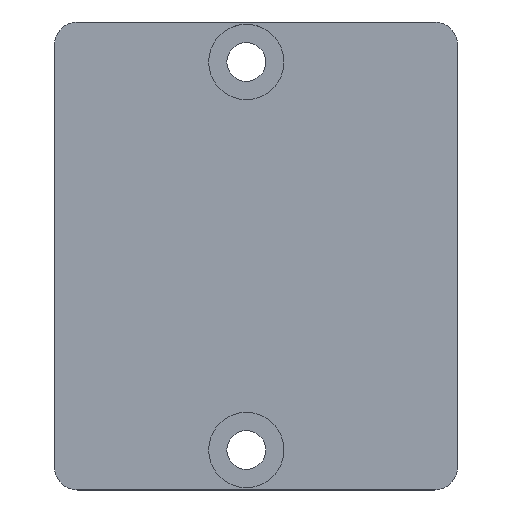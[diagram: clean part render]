
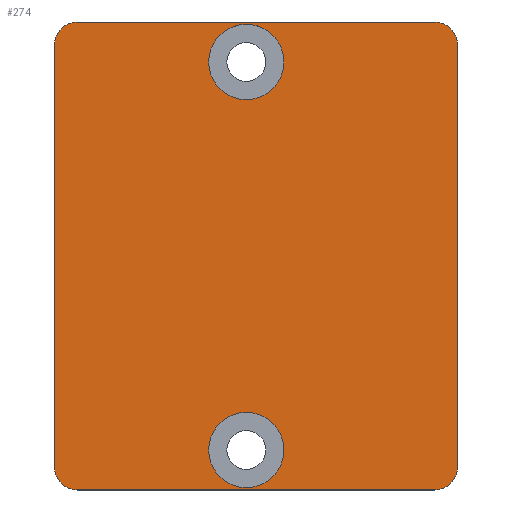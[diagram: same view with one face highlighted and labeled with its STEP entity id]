
A CAD part, top view. The second image highlights one B-rep face of the part: STEP entity #274.
In plain terms, the highlighted planar face has unit normal (0, 0, 1).
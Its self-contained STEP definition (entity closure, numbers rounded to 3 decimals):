
#25=FACE_BOUND('',#59,.T.);
#26=FACE_BOUND('',#60,.T.);
#40=FACE_OUTER_BOUND('',#58,.T.);
#58=EDGE_LOOP('',(#233,#234,#235,#236,#237,#238,#239,#240));
#59=EDGE_LOOP('',(#241));
#60=EDGE_LOOP('',(#242));
#73=CIRCLE('',#302,2.);
#74=CIRCLE('',#304,2.);
#75=CIRCLE('',#308,2.);
#76=CIRCLE('',#310,2.);
#79=CIRCLE('',#317,3.3);
#80=CIRCLE('',#318,3.3);
#88=LINE('',#437,#108);
#93=LINE('',#450,#113);
#94=LINE('',#453,#114);
#98=LINE('',#464,#118);
#108=VECTOR('',#348,1.);
#113=VECTOR('',#363,1.);
#114=VECTOR('',#366,1.);
#118=VECTOR('',#380,1.);
#133=VERTEX_POINT('',#434);
#134=VERTEX_POINT('',#436);
#135=VERTEX_POINT('',#440);
#136=VERTEX_POINT('',#444);
#137=VERTEX_POINT('',#448);
#138=VERTEX_POINT('',#452);
#139=VERTEX_POINT('',#456);
#140=VERTEX_POINT('',#460);
#143=VERTEX_POINT('',#474);
#144=VERTEX_POINT('',#476);
#158=EDGE_CURVE('',#134,#133,#88,.T.);
#161=EDGE_CURVE('',#133,#135,#73,.T.);
#162=EDGE_CURVE('',#136,#134,#74,.T.);
#165=EDGE_CURVE('',#135,#137,#93,.T.);
#166=EDGE_CURVE('',#136,#138,#94,.T.);
#168=EDGE_CURVE('',#137,#139,#75,.T.);
#170=EDGE_CURVE('',#140,#138,#76,.T.);
#172=EDGE_CURVE('',#140,#139,#98,.T.);
#177=EDGE_CURVE('',#143,#143,#79,.T.);
#178=EDGE_CURVE('',#144,#144,#80,.T.);
#233=ORIENTED_EDGE('',*,*,#158,.T.);
#234=ORIENTED_EDGE('',*,*,#161,.T.);
#235=ORIENTED_EDGE('',*,*,#165,.T.);
#236=ORIENTED_EDGE('',*,*,#168,.T.);
#237=ORIENTED_EDGE('',*,*,#172,.F.);
#238=ORIENTED_EDGE('',*,*,#170,.T.);
#239=ORIENTED_EDGE('',*,*,#166,.F.);
#240=ORIENTED_EDGE('',*,*,#162,.T.);
#241=ORIENTED_EDGE('',*,*,#177,.F.);
#242=ORIENTED_EDGE('',*,*,#178,.F.);
#260=PLANE('',#316);
#274=ADVANCED_FACE('',(#40,#25,#26),#260,.T.);
#302=AXIS2_PLACEMENT_3D('',#442,#353,#354);
#304=AXIS2_PLACEMENT_3D('',#445,#357,#358);
#308=AXIS2_PLACEMENT_3D('',#457,#370,#371);
#310=AXIS2_PLACEMENT_3D('',#461,#375,#376);
#316=AXIS2_PLACEMENT_3D('',#473,#391,#392);
#317=AXIS2_PLACEMENT_3D('',#475,#393,#394);
#318=AXIS2_PLACEMENT_3D('',#477,#395,#396);
#348=DIRECTION('',(1.,0.,0.));
#353=DIRECTION('center_axis',(0.,0.,1.));
#354=DIRECTION('ref_axis',(1.,0.,0.));
#357=DIRECTION('center_axis',(0.,0.,1.));
#358=DIRECTION('ref_axis',(1.,0.,0.));
#363=DIRECTION('',(0.,1.,0.));
#366=DIRECTION('',(0.,1.,0.));
#370=DIRECTION('center_axis',(0.,0.,1.));
#371=DIRECTION('ref_axis',(1.,0.,0.));
#375=DIRECTION('center_axis',(0.,0.,1.));
#376=DIRECTION('ref_axis',(1.,0.,0.));
#380=DIRECTION('',(1.,0.,0.));
#391=DIRECTION('center_axis',(0.,0.,1.));
#392=DIRECTION('ref_axis',(1.,0.,0.));
#393=DIRECTION('center_axis',(0.,0.,1.));
#394=DIRECTION('ref_axis',(1.,0.,0.));
#395=DIRECTION('center_axis',(0.,0.,1.));
#396=DIRECTION('ref_axis',(1.,0.,0.));
#434=CARTESIAN_POINT('',(16.5,-20.5,136.5));
#436=CARTESIAN_POINT('',(-14.8,-20.5,136.5));
#437=CARTESIAN_POINT('',(-14.8,-20.5,136.5));
#440=CARTESIAN_POINT('',(18.5,-18.5,136.5));
#442=CARTESIAN_POINT('Origin',(16.5,-18.5,136.5));
#444=CARTESIAN_POINT('',(-16.8,-18.5,136.5));
#445=CARTESIAN_POINT('Origin',(-14.8,-18.5,136.5));
#448=CARTESIAN_POINT('',(18.5,18.5,136.5));
#450=CARTESIAN_POINT('',(18.5,-18.5,136.5));
#452=CARTESIAN_POINT('',(-16.8,18.5,136.5));
#453=CARTESIAN_POINT('',(-16.8,-18.5,136.5));
#456=CARTESIAN_POINT('',(16.5,20.5,136.5));
#457=CARTESIAN_POINT('Origin',(16.5,18.5,136.5));
#460=CARTESIAN_POINT('',(-14.8,20.5,136.5));
#461=CARTESIAN_POINT('Origin',(-14.8,18.5,136.5));
#464=CARTESIAN_POINT('',(-14.8,20.5,136.5));
#473=CARTESIAN_POINT('Origin',(16.5,-18.5,136.5));
#474=CARTESIAN_POINT('',(-3.3,-17.,136.5));
#475=CARTESIAN_POINT('Origin',(0.,-17.,136.5));
#476=CARTESIAN_POINT('',(-3.3,17.,136.5));
#477=CARTESIAN_POINT('Origin',(0.,17.,136.5));
